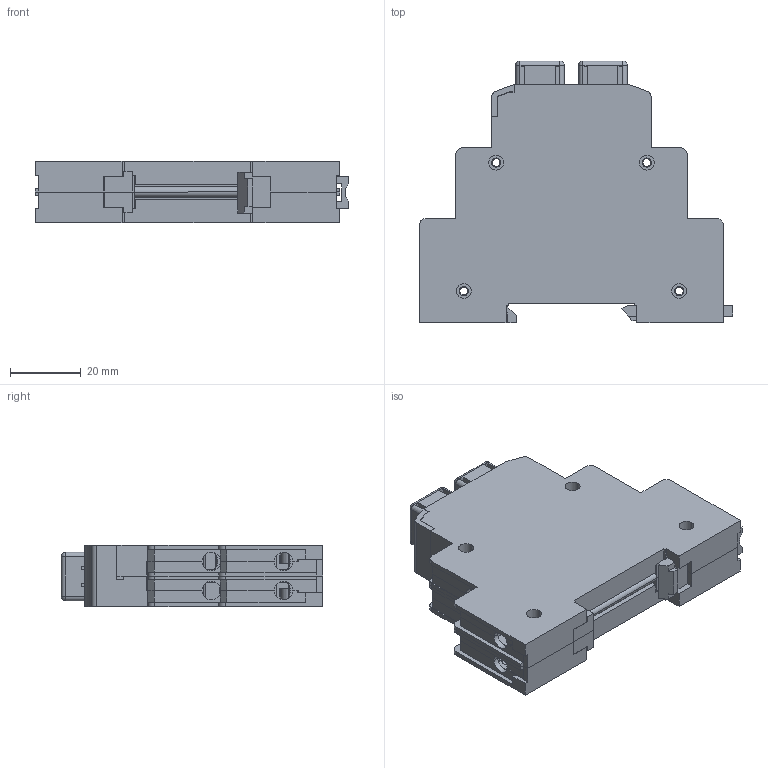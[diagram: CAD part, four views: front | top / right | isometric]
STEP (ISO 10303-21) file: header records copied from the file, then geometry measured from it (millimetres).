
FILE_DESCRIPTION (( 'STEP AP214' ), '1' );
FILE_NAME ('MT2.step', '2011-08-08T07:10:17', ( 'Radek Veselý' ), ( 'Siemens and Partners' ), 'SwSTEP 2.0', 'SolidWorks 2006303', '' );
FILE_SCHEMA (( 'AUTOMOTIVE_DESIGN' ));
Length unit declared in the file: millimetre
Products named in the file (1): MT2
Bounding box: 88.57 x 74 x 17.5 mm (x, y, z)
Volume: 35571.3 mm3; surface area: 52531.6 mm2
Topology: 22 solids, 22 shells, 2803 faces, 7631 edges, 4842 vertices
Faces by surface type: plane 1704, cylinder 805, bspline 144, cone 90, torus 52, sphere 8
Entity records: 120964 total; most frequent: CARTESIAN_POINT 19683, ORIENTED_EDGE 15118, DIRECTION 14147, EDGE_CURVE 7559, VECTOR 5187, LINE 5187, VERTEX_POINT 4842, AXIS2_PLACEMENT_3D 4480
